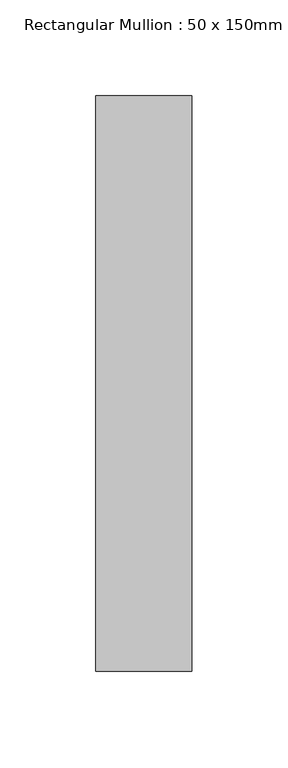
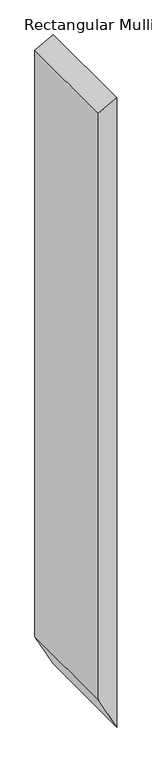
"""IFC4 building model written with IfcOpenShell, lengths in millimetres: member geometry, Rectangular Mullion : 50 x 150mm."""

import ifcopenshell
import ifcopenshell.guid

model = None  # the IFC model being written
_history = None  # IfcOwnerHistory: only IFC2X3 demands one
_inside = {}  # id of a spatial element -> (the spatial element, [elements in it])
_under = {}  # id of a project, library or spatial element -> (it, [spatial elements below it])
_declared = {}  # id of a project -> (the project, [libraries it declares])
_typed = {}  # id of a type object -> (the type object, [elements of that type])
_made_of = {}  # id of a material, layer set ... -> (it, [elements and type objects made of it])


def new_model(schema):
    """Start an empty IFC model of exactly this schema.

    Asked for "IFC4X3", IfcOpenShell would pick the latest addendum, in which some entities
    have other attributes; the version numbers below select the first issue.
    IFC2X3 requires an IfcOwnerHistory on every rooted entity: one is made here for all.
    """
    global model, _history
    if schema == "IFC4X3":
        model = ifcopenshell.file(schema_version=(4, 3, 0, 0))
    else:
        model = ifcopenshell.file(schema=schema)
    _inside.clear()
    _under.clear()
    _declared.clear()
    _typed.clear()
    _made_of.clear()
    _history = None
    if model.schema == "IFC2X3":
        org = make("IfcOrganization", Name="unknown")
        user = make(
            "IfcPersonAndOrganization",
            ThePerson=make("IfcPerson", FamilyName="unknown"),
            TheOrganization=org,
        )
        app = make(
            "IfcApplication",
            ApplicationDeveloper=org,
            Version="unknown",
            ApplicationFullName="unknown",
            ApplicationIdentifier="unknown",
        )
        _history = make(
            "IfcOwnerHistory",
            OwningUser=user,
            OwningApplication=app,
            ChangeAction="ADDED",
            CreationDate=0,
        )
    return model


def make(cls, **values):
    """One entity of the class cls with the attributes given. An attribute that is None is left unset."""
    return model.create_entity(
        cls, **{name: value for name, value in values.items() if value is not None}
    )


def rooted(cls, **values):
    """An entity with a GlobalId (a new one), such as an element, a storey or a relation."""
    return make(cls, GlobalId=ifcopenshell.guid.new(), OwnerHistory=_history, **values)


def si_unit(unit_type, name, prefix=None):
    """IfcSIUnit, for example si_unit("LENGTHUNIT", "METRE", prefix="MILLI")."""
    return make("IfcSIUnit", UnitType=unit_type, Prefix=prefix, Name=name)


def assignment(units):
    """IfcUnitAssignment: the units of a project."""
    return None if units is None else make("IfcUnitAssignment", Units=units)


def point(xyz):
    """IfcCartesianPoint."""
    return None if xyz is None else make("IfcCartesianPoint", Coordinates=xyz)


def direction(xyz):
    """IfcDirection."""
    return None if xyz is None else make("IfcDirection", DirectionRatios=xyz)


def frame(location, z_axis=None, x_axis=None):
    """IfcAxis2Placement3D, a coordinate frame: its origin and axes. An axis left out is left unset."""
    return make(
        "IfcAxis2Placement3D",
        Location=point(location),
        Axis=direction(z_axis),
        RefDirection=direction(x_axis),
    )


def origin():
    """The frame at (0, 0, 0) with its axes left unset."""
    return frame((0.0, 0.0, 0.0))


def place(relative_to, where):
    """IfcLocalPlacement: puts the frame where relative to a parent placement (None: the world)."""
    return make(
        "IfcLocalPlacement", PlacementRelTo=relative_to, RelativePlacement=where
    )


def context(
    kind, dimensions, precision=None, world=None, true_north=None, identifier=None
):
    """IfcGeometricRepresentationContext, for example the 3D "Model" context."""
    return make(
        "IfcGeometricRepresentationContext",
        ContextIdentifier=identifier,
        ContextType=kind,
        CoordinateSpaceDimension=dimensions,
        Precision=precision,
        WorldCoordinateSystem=world,
        TrueNorth=true_north,
    )


def project(units=None, contexts=None):
    """IfcProject with its units and contexts."""
    return rooted(
        "IfcProject",
        Name="project",
        RepresentationContexts=contexts,
        UnitsInContext=assignment(units),
    )


def spatial(cls, under=None, at=None, **own):
    """A site, building, storey or space (cls), placed at a placement, below another one or the project."""
    s = rooted(cls, ObjectPlacement=at, **own)
    if under is not None:
        _under.setdefault(under.id(), (under, []))[1].append(s)
    return s


def polyline(points):
    """IfcPolyline through the points."""
    return make("IfcPolyline", Points=[point(p) for p in points])


def outline(outer, holes=None, kind="AREA"):
    """IfcArbitraryClosedProfileDef: a profile drawn as a closed curve; with holes, ...WithVoids."""
    if holes is None:
        return make("IfcArbitraryClosedProfileDef", ProfileType=kind, OuterCurve=outer)
    return make(
        "IfcArbitraryProfileDefWithVoids",
        ProfileType=kind,
        OuterCurve=outer,
        InnerCurves=holes,
    )


def extrude(swept, where, along, depth):
    """IfcExtrudedAreaSolid: the profile swept, set in the frame where, extruded along a direction by depth."""
    return make(
        "IfcExtrudedAreaSolid",
        SweptArea=swept,
        Position=where,
        ExtrudedDirection=direction(along),
        Depth=depth,
    )


def shape(context_of_items, identifier, shape_type, items):
    """IfcShapeRepresentation: the items that make up one representation, for example the "Body"."""
    return make(
        "IfcShapeRepresentation",
        ContextOfItems=context_of_items,
        RepresentationIdentifier=identifier,
        RepresentationType=shape_type,
        Items=items,
    )


def source(mapping_origin, context_of_items, identifier, shape_type, items):
    """IfcRepresentationMap: a shape defined once, which mapped items show again and again."""
    return make(
        "IfcRepresentationMap",
        MappingOrigin=mapping_origin,
        MappedRepresentation=shape(context_of_items, identifier, shape_type, items),
    )


def transform(
    local_origin,
    x_axis=None,
    y_axis=None,
    z_axis=None,
    scale=None,
    scale2=None,
    scale3=None,
    uniform=True,
):
    """IfcCartesianTransformationOperator3D, or its non-uniform kind. x_axis, y_axis, z_axis: its Axis1, 2, 3."""
    if uniform:
        return make(
            "IfcCartesianTransformationOperator3D",
            Axis1=direction(x_axis),
            Axis2=direction(y_axis),
            LocalOrigin=point(local_origin),
            Scale=scale,
            Axis3=direction(z_axis),
        )
    return make(
        "IfcCartesianTransformationOperator3DnonUniform",
        Axis1=direction(x_axis),
        Axis2=direction(y_axis),
        LocalOrigin=point(local_origin),
        Scale=scale,
        Axis3=direction(z_axis),
        Scale2=scale2,
        Scale3=scale3,
    )


def mapped(mapping_source, mapping_target):
    """IfcMappedItem: shows the shape of a source again, moved by a transform."""
    return make(
        "IfcMappedItem", MappingSource=mapping_source, MappingTarget=mapping_target
    )


def made_of(thing, what):
    """Note that an element or type object is made of a material, layer set ...; save() writes the relation."""
    if what is not None:
        _made_of.setdefault(what.id(), (what, []))[1].append(thing)
    return thing


def element(
    cls,
    number,
    at=None,
    inside=None,
    cuts=None,
    type_object=None,
    material=None,
    context=None,
    identifier="Body",
    shape_type=None,
    held_by="IfcProductDefinitionShape",
    body=None,
    shapes=None,
    **own,
):
    """One element of the class cls, such as IfcWall. Its Tag is "e" and its number.

    at: its placement. inside: the storey or other place that contains it. cuts: it is an
    opening in that element (IfcRelVoidsElement). A single representation is given by context,
    identifier, shape_type and body (its items); several are given by shapes. held_by: the class
    of the entity that holds the representations. save() writes the other relations.
    """
    e = rooted(cls, Tag="e%d" % number, ObjectPlacement=at, **own)
    if body is not None:
        shapes = [shape(context, identifier, shape_type, body)]
    if shapes is not None:
        e.Representation = make(held_by, Representations=shapes)
    if inside is not None:
        _inside.setdefault(inside.id(), (inside, []))[1].append(e)
    if cuts is not None:
        rooted(
            "IfcRelVoidsElement", RelatingBuildingElement=cuts, RelatedOpeningElement=e
        )
    if type_object is not None:
        _typed.setdefault(type_object.id(), (type_object, []))[1].append(e)
    return made_of(e, material)


def aggregate(whole, parts):
    """IfcRelAggregates: a whole, such as a stair, and the parts it consists of."""
    return rooted("IfcRelAggregates", RelatingObject=whole, RelatedObjects=parts)


def save(model, path):
    """Write the relations noted so far, then the file.

    IfcRelAggregates (storeys below a building ...), IfcRelContainedInSpatialStructure (elements
    in a storey), IfcRelDefinesByType, IfcRelAssociatesMaterial and IfcRelDeclares: one each for
    every whole, place, type object, material and project.
    """
    for whole, parts in _under.values():
        aggregate(whole, parts)
    for where, things in _inside.values():
        rooted(
            "IfcRelContainedInSpatialStructure",
            RelatedElements=things,
            RelatingStructure=where,
        )
    for kind, things in _typed.values():
        rooted("IfcRelDefinesByType", RelatedObjects=things, RelatingType=kind)
    for what, things in _made_of.values():
        rooted("IfcRelAssociatesMaterial", RelatedObjects=things, RelatingMaterial=what)
    for by, libraries in _declared.values():
        rooted("IfcRelDeclares", RelatingContext=by, RelatedDefinitions=libraries)
    model.write(path)


def rectangular_mullion_50_x_150mm_21f2cfc2(model_context):
    return source(origin(), model_context, "Body", "SweptSolid", [
        extrude(outline(polyline([(0.0, 0.0), (-26.0283525, -50.0), (-1718.0484342, -50.0), (-1814.0975405, 0.0), (0.0, 0.0)])), frame((0.0, -125.0, 0.0), z_axis=(0.0, 1.0, 0.0), x_axis=(0.0, 0.0, 1.0)), (0.0, 0.0, 1.0), 300.0),
    ])


if __name__ == "__main__":
    model = new_model("IFC4")
    model_context = context("Model", 3, world=origin())
    ifc_project = project(units=[si_unit("LENGTHUNIT", "METRE", prefix="MILLI")], contexts=[model_context])
    site = spatial("IfcSite", under=ifc_project)
    building = spatial("IfcBuilding", under=site)
    placement = place(None, origin())
    rectangular_mullion_50_x_150mm_shape = rectangular_mullion_50_x_150mm_21f2cfc2(model_context)
    element("IfcMember", 1, ObjectType="Rectangular Mullion : 50 x 150mm", at=placement, inside=building, context=model_context, shape_type="MappedRepresentation", body=[
        mapped(rectangular_mullion_50_x_150mm_shape, transform((0.0, 0.0, 0.0), x_axis=(1.0, 0.0, 0.0), y_axis=(0.0, 1.0, 0.0), z_axis=(0.0, 0.0, 1.0))),
    ])
    save(model, "model.ifc")
